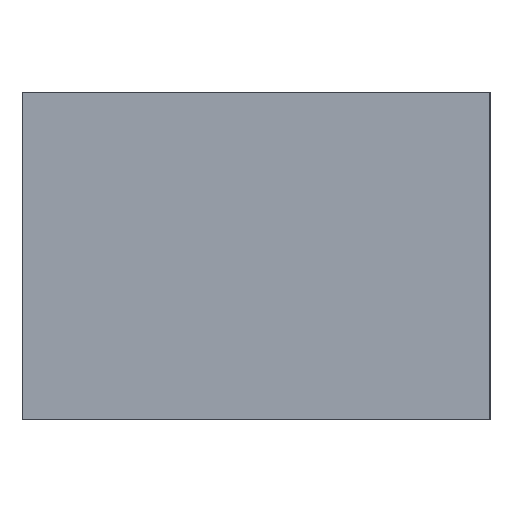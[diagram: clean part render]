
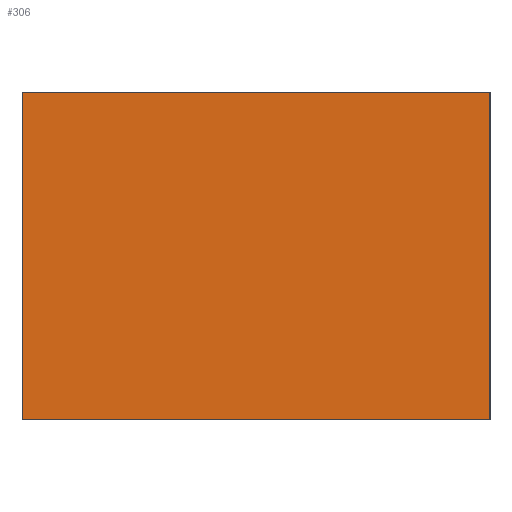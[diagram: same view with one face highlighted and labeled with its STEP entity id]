
A CAD part, left-side view. The second image highlights one B-rep face of the part: STEP entity #306.
In plain terms, the highlighted planar face has unit normal (-1, 0, 0).
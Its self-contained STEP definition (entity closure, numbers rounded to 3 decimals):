
#306=ADVANCED_FACE('',(#717),#719,.T.);
#717=FACE_BOUND('',#718,.T.);
#718=EDGE_LOOP('',(#1022,#1023,#1024,#1025));
#719=PLANE('',#720);
#720=AXIS2_PLACEMENT_3D('',#721,#722,#723);
#721=CARTESIAN_POINT('',(-0.5,-0.25,0.025));
#722=DIRECTION('',(-1.,0.,0.));
#723=DIRECTION('',(0.,0.,1.));
#1022=ORIENTED_EDGE('',*,*,#1204,.T.);
#1023=ORIENTED_EDGE('',*,*,#1214,.T.);
#1024=ORIENTED_EDGE('',*,*,#1209,.F.);
#1025=ORIENTED_EDGE('',*,*,#1215,.F.);
#1204=EDGE_CURVE('',#1361,#1359,#1362,.T.);
#1209=EDGE_CURVE('',#1368,#1370,#1371,.T.);
#1214=EDGE_CURVE('',#1359,#1370,#1377,.T.);
#1215=EDGE_CURVE('',#1361,#1368,#1378,.T.);
#1359=VERTEX_POINT('',#1658);
#1361=VERTEX_POINT('',#1662);
#1362=LINE('',#1663,#1664);
#1368=VERTEX_POINT('',#1677);
#1370=VERTEX_POINT('',#1681);
#1371=LINE('',#1682,#1683);
#1377=LINE('',#1698,#1699);
#1378=LINE('',#1701,#1702);
#1658=CARTESIAN_POINT('',(-0.5,-0.25,0.375));
#1662=CARTESIAN_POINT('',(-0.5,-0.25,0.025));
#1663=CARTESIAN_POINT('',(-0.5,-0.25,0.025));
#1664=VECTOR('',#1665,1.);
#1665=DIRECTION('',(0.,0.,1.));
#1677=CARTESIAN_POINT('',(-0.5,0.25,0.025));
#1681=CARTESIAN_POINT('',(-0.5,0.25,0.375));
#1682=CARTESIAN_POINT('',(-0.5,0.25,0.025));
#1683=VECTOR('',#1684,1.);
#1684=DIRECTION('',(0.,0.,1.));
#1698=CARTESIAN_POINT('',(-0.5,-0.25,0.375));
#1699=VECTOR('',#1700,1.);
#1700=DIRECTION('',(0.,1.,0.));
#1701=CARTESIAN_POINT('',(-0.5,-0.25,0.025));
#1702=VECTOR('',#1703,1.);
#1703=DIRECTION('',(0.,1.,0.));
